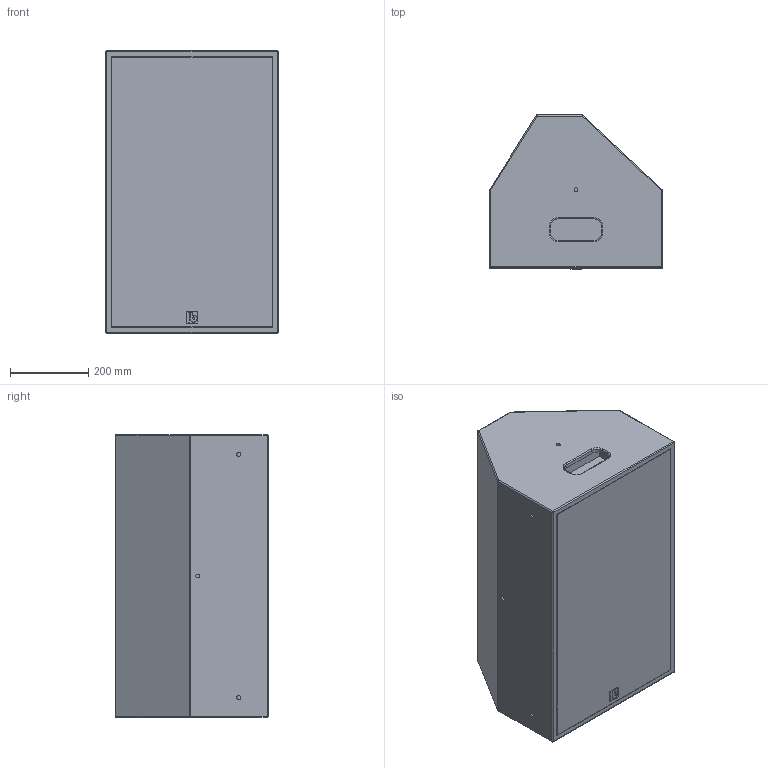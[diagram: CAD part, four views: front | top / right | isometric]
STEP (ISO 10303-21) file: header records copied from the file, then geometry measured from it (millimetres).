
FILE_DESCRIPTION(/* description */ (''),/* implementation_level */ '2;1');
FILE_NAME(/* name */ 'F15.stp',/* time_stamp */ '2024-08-21T16:33:18+02:00',/* author */ ('d.streicher'),/* organization */ (''),/* preprocessor_version */ 'ST-DEVELOPER v20',/* originating_system */ 'Autodesk Inventor 2025',/* authorisation */ '');
FILE_SCHEMA (('AUTOMOTIVE_DESIGN { 1 0 10303 214 3 1 1 }'));
Length unit declared in the file: millimetre
Products named in the file (1): F15
Bounding box: 440 x 391.5 x 720 mm (x, y, z)
Volume: 99855166.3 mm3; surface area: 1519747.9 mm2
Topology: 1 solids, 1 shells, 168 faces, 362 edges, 220 vertices
Faces by surface type: plane 80, cylinder 54, cone 12, torus 12, sphere 10
Full cylindrical faces by diameter (mm): 10 x9, 22 x2, 35 x1, 120 x1
Entity records: 4775 total; most frequent: DIRECTION 838, CARTESIAN_POINT 751, ORIENTED_EDGE 724, EDGE_CURVE 362, AXIS2_PLACEMENT_3D 307, LINE 224, VECTOR 224, VERTEX_POINT 220
